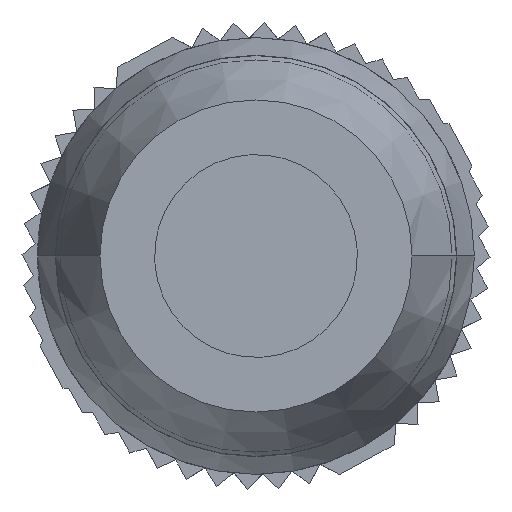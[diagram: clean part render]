
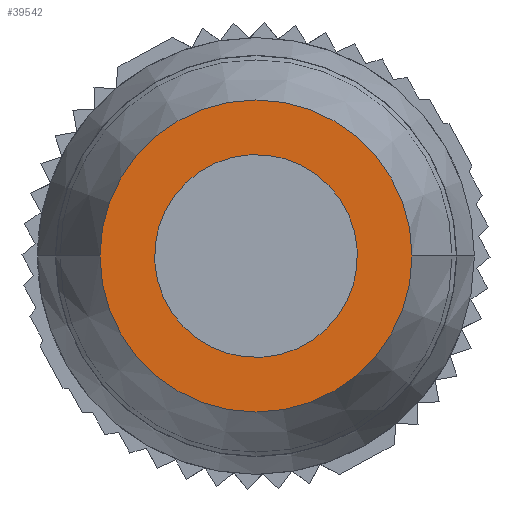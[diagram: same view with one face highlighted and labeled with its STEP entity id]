
A CAD part, left-side view. The second image highlights one B-rep face of the part: STEP entity #39542.
In plain terms, the highlighted planar face has unit normal (-1, 0, 0).
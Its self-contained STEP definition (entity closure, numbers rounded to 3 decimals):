
#365 = ORIENTED_EDGE ( 'NONE', *, *, #4972, .F. ) ;
#495 = DIRECTION ( 'NONE',  ( 1., 0., 0. ) ) ;
#1295 = EDGE_LOOP ( 'NONE', ( #35611, #32920 ) ) ;
#1791 = CIRCLE ( 'NONE', #32207, 3.25 ) ;
#1805 = DIRECTION ( 'NONE',  ( 0., 0.694, -0.72 ) ) ;
#4366 = DIRECTION ( 'NONE',  ( 0., -1., 0. ) ) ;
#4937 = CIRCLE ( 'NONE', #28076, 5. ) ;
#4972 = EDGE_CURVE ( 'NONE', #32736, #7745, #1791, .T. ) ;
#7745 = VERTEX_POINT ( 'NONE', #37095 ) ;
#8620 = CARTESIAN_POINT ( 'NONE',  ( -11.5, 0., 0. ) ) ;
#9363 = EDGE_CURVE ( 'NONE', #13387, #28116, #4937, .T. ) ;
#9739 = AXIS2_PLACEMENT_3D ( 'NONE', #25688, #23201, #4366 ) ;
#10559 = FACE_BOUND ( 'NONE', #11488, .T. ) ;
#11488 = EDGE_LOOP ( 'NONE', ( #19085, #365 ) ) ;
#11950 = EDGE_CURVE ( 'NONE', #28116, #13387, #36184, .T. ) ;
#12967 = CARTESIAN_POINT ( 'NONE',  ( -11.5, 2.255, 2.34 ) ) ;
#13387 = VERTEX_POINT ( 'NONE', #35976 ) ;
#14936 = CARTESIAN_POINT ( 'NONE',  ( -11.5, 0., 0. ) ) ;
#15346 = DIRECTION ( 'NONE',  ( -1., 0., 0. ) ) ;
#19085 = ORIENTED_EDGE ( 'NONE', *, *, #20496, .F. ) ;
#19661 = PLANE ( 'NONE',  #9739 ) ;
#20496 = EDGE_CURVE ( 'NONE', #7745, #32736, #22623, .T. ) ;
#21609 = DIRECTION ( 'NONE',  ( 0., 1., 0. ) ) ;
#22623 = CIRCLE ( 'NONE', #27929, 3.25 ) ;
#23201 = DIRECTION ( 'NONE',  ( -1., 0., 0. ) ) ;
#23599 = AXIS2_PLACEMENT_3D ( 'NONE', #31771, #40876, #21609 ) ;
#25688 = CARTESIAN_POINT ( 'NONE',  ( -11.5, 0., 0. ) ) ;
#27578 = DIRECTION ( 'NONE',  ( 0., 0.694, -0.72 ) ) ;
#27929 = AXIS2_PLACEMENT_3D ( 'NONE', #8620, #30171, #1805 ) ;
#28076 = AXIS2_PLACEMENT_3D ( 'NONE', #28848, #495, #37571 ) ;
#28116 = VERTEX_POINT ( 'NONE', #35468 ) ;
#28848 = CARTESIAN_POINT ( 'NONE',  ( -11.5, 0., 0. ) ) ;
#30171 = DIRECTION ( 'NONE',  ( -1., 0., 0. ) ) ;
#31771 = CARTESIAN_POINT ( 'NONE',  ( -11.5, 0., 0. ) ) ;
#32207 = AXIS2_PLACEMENT_3D ( 'NONE', #14936, #15346, #27578 ) ;
#32736 = VERTEX_POINT ( 'NONE', #12967 ) ;
#32745 = FACE_OUTER_BOUND ( 'NONE', #1295, .T. ) ;
#32920 = ORIENTED_EDGE ( 'NONE', *, *, #11950, .F. ) ;
#35468 = CARTESIAN_POINT ( 'NONE',  ( -11.5, -5., 0. ) ) ;
#35611 = ORIENTED_EDGE ( 'NONE', *, *, #9363, .F. ) ;
#35976 = CARTESIAN_POINT ( 'NONE',  ( -11.5, 5., 0. ) ) ;
#36184 = CIRCLE ( 'NONE', #23599, 5. ) ;
#37095 = CARTESIAN_POINT ( 'NONE',  ( -11.5, -2.255, -2.34 ) ) ;
#37571 = DIRECTION ( 'NONE',  ( 0., 1., 0. ) ) ;
#39542 = ADVANCED_FACE ( 'NONE', ( #32745, #10559 ), #19661, .T. ) ;
#40876 = DIRECTION ( 'NONE',  ( 1., 0., 0. ) ) ;
